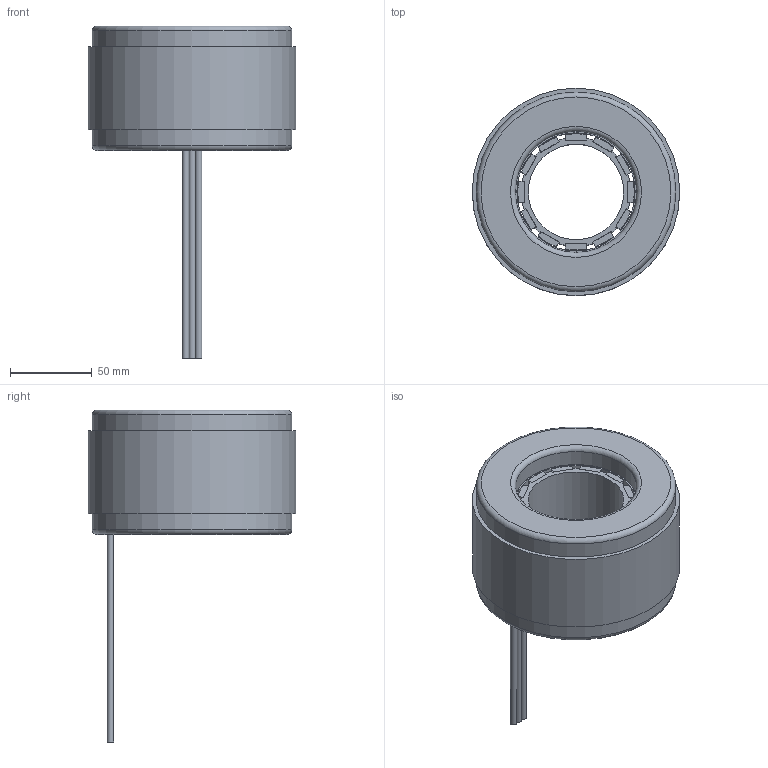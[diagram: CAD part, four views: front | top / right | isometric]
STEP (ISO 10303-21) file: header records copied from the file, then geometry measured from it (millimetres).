
FILE_DESCRIPTION(/* description */ (''),/* implementation_level */ '2;1');
FILE_NAME(/* name */ 'C:\CAD_Work\Designs\EMN\EMN-Unrestricted\New Ulm\STEP FILES\K127200-XX1.stp',/* time_stamp */ '2015-04-09T07:44:18-05:00',/* author */ ('ALA4428'),/* organization */ (''),/* preprocessor_version */ 'ST-DEVELOPER v15.2',/* originating_system */ 'Autodesk Inventor 2014',/* authorisation */ '');
FILE_SCHEMA (('AUTOMOTIVE_DESIGN { 1 0 10303 214 3 1 1 }'));
Products named in the file (29): W127200-XX1; 127200-XX1; 10169028; 10551016; 10551016_1; 10551016_2; 10551016_3; 10551016_4; 10551016_5; 10551016_6; 10551016_7; 10551016_8; 10551016_9; 10551016_10; 10551016_11; 10551016_12; 10551016_13; 10551016_14; 10551016_15; 10551016_16; 10551016_17; 10551016_18; 10551016_19; 10551016_20; 10551016_21; 10551016_22; 10551016_23; 10166008; K127XXX-XXX
Bounding box: 127 x 127 x 203.2 mm (x, y, z)
Volume: 684660.1 mm3; surface area: 112506.6 mm2
Topology: 26 solids, 26 shells, 218 faces, 471 edges, 310 vertices
Faces by surface type: plane 167, cylinder 47, torus 4
Full cylindrical faces by diameter (mm): 4 x2, 58.395 x1, 72.365 x1, 74.17 x2, 122.17 x2, 127 x1
Entity records: 6530 total; most frequent: DIRECTION 1108, CARTESIAN_POINT 1045, ORIENTED_EDGE 924, EDGE_CURVE 460, AXIS2_PLACEMENT_3D 373, LINE 362, VECTOR 362, VERTEX_POINT 310
